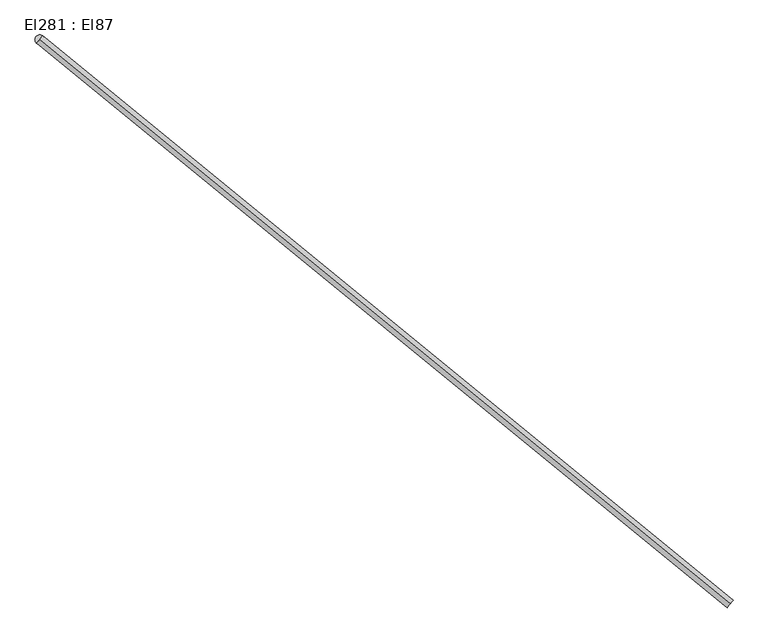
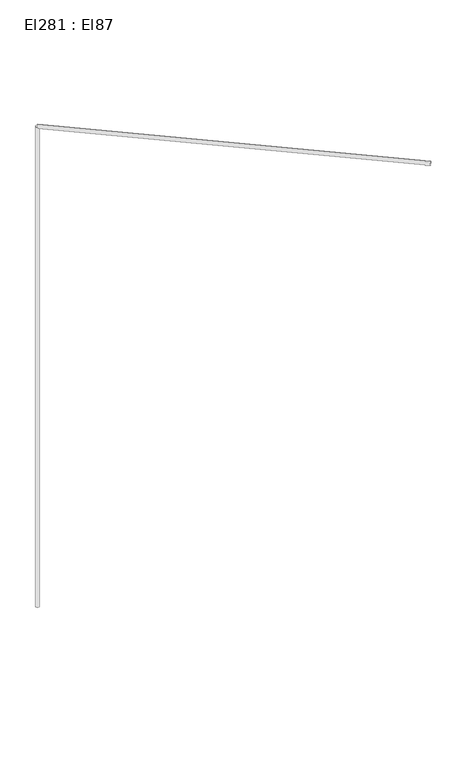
"""IFC4 building model written with IfcOpenShell, lengths in millimetres: cable carrier segment geometry, El281 : El87."""

from ifc_helpers import new_model, si_unit, point, frame, frame_2d, origin, place, context, project, spatial, circle_curve, trimmed, segment, composite_curve, outline, extrude, source, transform, mapped, element, save


def el281_el87_18f5768c(model_context):
    return source(origin(), model_context, "Body", "SweptSolid", [
        extrude(outline(composite_curve([segment(trimmed(circle_curve(frame_2d((22348.0376511, 11265.9661745)), 9.5), [point((22338.5376511, 11265.9661745))], [point((22357.5376511, 11265.9661745))], False, "CARTESIAN"), True, "CONTINUOUS"), segment(trimmed(circle_curve(frame_2d((22348.0376511, 11265.9661745)), 9.5), [point((22357.5376511, 11265.9661745))], [point((22338.5376511, 11265.9661745))], False, "CARTESIAN"), True, "CONTINUOUS")], self_intersect=False)), frame((0.0, 0.0, 1830.0), z_axis=(0.0, 0.0, 1.0), x_axis=(1.0, 0.0, 0.0)), (0.0, 0.0, 1.0), 2620.0),
        extrude(outline(composite_curve([segment(trimmed(circle_curve(frame_2d((0.0, -9.5)), 9.5), [point((0.0, -19.0))], [point((0.0, 0.0))], False, "CARTESIAN"), True, "CONTINUOUS"), segment(trimmed(circle_curve(frame_2d((0.0, -9.5)), 9.5), [point((0.0, 0.0))], [point((0.0, -19.0))], False, "CARTESIAN"), True, "CONTINUOUS")], self_intersect=False)), frame((23728.5966511, 10136.7111745, 4459.5), z_axis=(-0.774038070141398, 0.6331390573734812, 0.0), x_axis=(-0.6331390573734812, -0.774038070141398, 0.0)), (0.0, 0.0, 1.0), 1783.58),
    ])


if __name__ == "__main__":
    model = new_model("IFC4")
    model_context = context("Model", 3, world=origin())
    ifc_project = project(units=[si_unit("LENGTHUNIT", "METRE", prefix="MILLI")], contexts=[model_context])
    site = spatial("IfcSite", under=ifc_project)
    building = spatial("IfcBuilding", under=site)
    placement = place(None, origin())
    el281_el87_shape = el281_el87_18f5768c(model_context)
    element("IfcCableCarrierSegment", 1, ObjectType="El281 : El87", at=placement, inside=building, context=model_context, shape_type="MappedRepresentation", body=[
        mapped(el281_el87_shape, transform((0.0, 0.0, 0.0), x_axis=(1.0, 0.0, 0.0), y_axis=(0.0, 1.0, 0.0), z_axis=(0.0, 0.0, 1.0))),
    ])
    save(model, "model.ifc")
